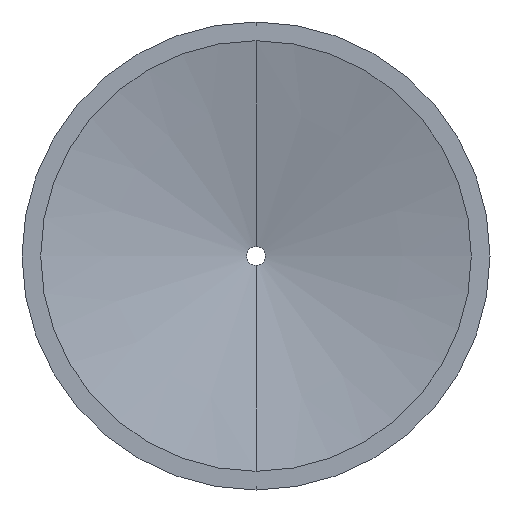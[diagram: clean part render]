
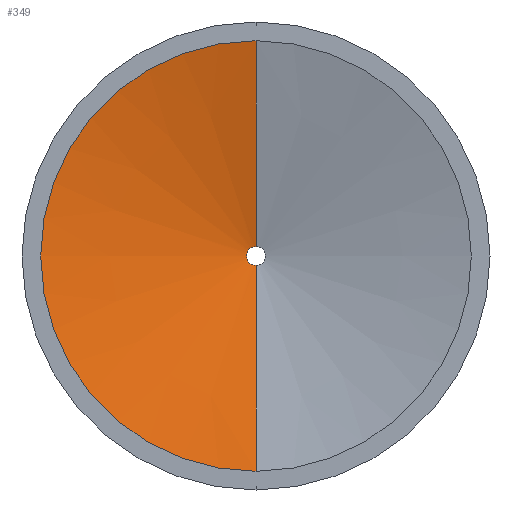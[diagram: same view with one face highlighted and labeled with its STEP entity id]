
A CAD part, front view. The second image highlights one B-rep face of the part: STEP entity #349.
In plain terms, the highlighted conical face has half-angle 77 degrees and reference radius 0.5 mm.
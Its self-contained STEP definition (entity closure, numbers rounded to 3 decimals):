
#2 = DIRECTION ( 'NONE',  ( 0., -1., 0. ) ) ;
#4 = AXIS2_PLACEMENT_3D ( 'NONE', #282, #2, #377 ) ;
#18 = EDGE_LOOP ( 'NONE', ( #159, #190, #365, #205 ) ) ;
#20 = VERTEX_POINT ( 'NONE', #235 ) ;
#25 = EDGE_CURVE ( 'NONE', #164, #443, #393, .T. ) ;
#92 = CONICAL_SURFACE ( 'NONE', #125, 0.5, 1.344 ) ;
#125 = AXIS2_PLACEMENT_3D ( 'NONE', #450, #237, #323 ) ;
#134 = DIRECTION ( 'NONE',  ( 0., -0.225, -0.974 ) ) ;
#135 = VERTEX_POINT ( 'NONE', #482 ) ;
#140 = FACE_OUTER_BOUND ( 'NONE', #18, .T. ) ;
#148 = DIRECTION ( 'NONE',  ( 0., 1., 0. ) ) ;
#149 = EDGE_CURVE ( 'NONE', #443, #135, #436, .T. ) ;
#158 = LINE ( 'NONE', #252, #182 ) ;
#159 = ORIENTED_EDGE ( 'NONE', *, *, #25, .F. ) ;
#164 = VERTEX_POINT ( 'NONE', #266 ) ;
#173 = EDGE_CURVE ( 'NONE', #164, #20, #158, .T. ) ;
#182 = VECTOR ( 'NONE', #302, 1000. ) ;
#190 = ORIENTED_EDGE ( 'NONE', *, *, #173, .T. ) ;
#205 = ORIENTED_EDGE ( 'NONE', *, *, #149, .F. ) ;
#235 = CARTESIAN_POINT ( 'NONE',  ( 0., 0., 11.5 ) ) ;
#237 = DIRECTION ( 'NONE',  ( 0., -1., 0. ) ) ;
#239 = CARTESIAN_POINT ( 'NONE',  ( 0., 0., 0. ) ) ;
#247 = EDGE_CURVE ( 'NONE', #135, #20, #402, .T. ) ;
#252 = CARTESIAN_POINT ( 'NONE',  ( 0., 2.54, 0.5 ) ) ;
#266 = CARTESIAN_POINT ( 'NONE',  ( 0., 2.54, 0.5 ) ) ;
#282 = CARTESIAN_POINT ( 'NONE',  ( 0., 2.54, 0. ) ) ;
#289 = VECTOR ( 'NONE', #134, 1000. ) ;
#302 = DIRECTION ( 'NONE',  ( 0., -0.225, 0.974 ) ) ;
#323 = DIRECTION ( 'NONE',  ( 0., 0., -1. ) ) ;
#349 = ADVANCED_FACE ( 'NONE', ( #140 ), #92, .F. ) ;
#354 = AXIS2_PLACEMENT_3D ( 'NONE', #239, #148, #431 ) ;
#365 = ORIENTED_EDGE ( 'NONE', *, *, #247, .F. ) ;
#377 = DIRECTION ( 'NONE',  ( 0., 0., -1. ) ) ;
#383 = CARTESIAN_POINT ( 'NONE',  ( 0., 2.54, -0.5 ) ) ;
#393 = CIRCLE ( 'NONE', #4, 0.5 ) ;
#402 = CIRCLE ( 'NONE', #354, 11.5 ) ;
#431 = DIRECTION ( 'NONE',  ( 0., 0., -1. ) ) ;
#436 = LINE ( 'NONE', #451, #289 ) ;
#443 = VERTEX_POINT ( 'NONE', #383 ) ;
#450 = CARTESIAN_POINT ( 'NONE',  ( 0., 2.54, 0. ) ) ;
#451 = CARTESIAN_POINT ( 'NONE',  ( 0., 2.54, -0.5 ) ) ;
#482 = CARTESIAN_POINT ( 'NONE',  ( 0., 0., -11.5 ) ) ;
